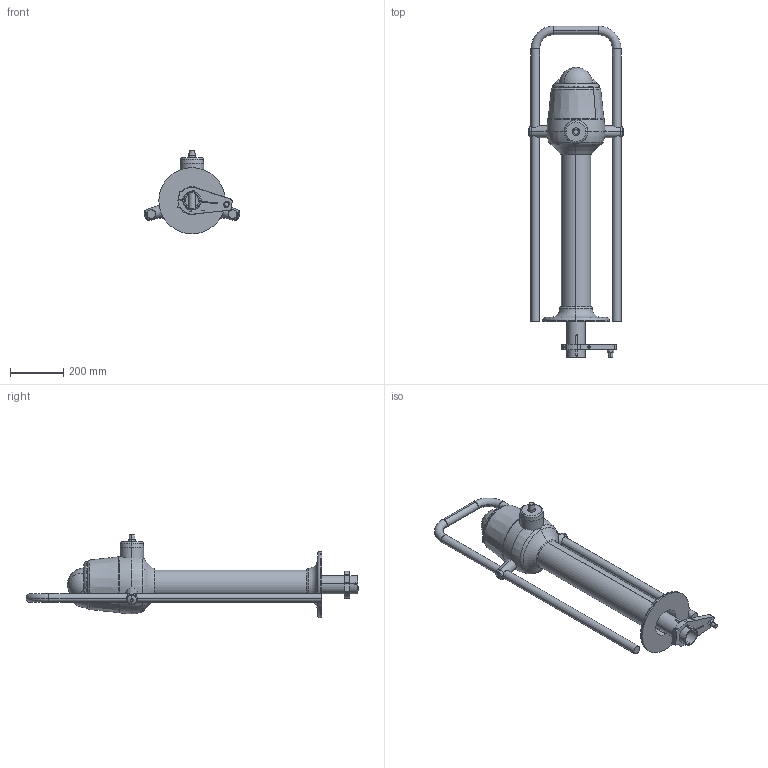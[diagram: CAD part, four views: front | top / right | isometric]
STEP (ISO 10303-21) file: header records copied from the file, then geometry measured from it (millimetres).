
FILE_DESCRIPTION (( 'STEP AP214' ), '1' );
FILE_NAME ('RP100-71.STEP', '2014-09-09T08:57:18', ( '' ), ( '' ), 'SwSTEP 2.0', 'SolidWorks 2014', '' );
FILE_SCHEMA (( 'AUTOMOTIVE_DESIGN' ));
Length unit declared in the file: millimetre
Products named in the file (12): Output lever_Output lever ›69; Z4-211 RP71 Downtube ø70x84_710; plain washer grade c_din_Washer DIN 126 - 6.6; socket head cap screw_din_DIN 912 M6 x 30 --- 30S; countersunk raised head cross recess screw_din_ISO 7047 - M3 x 12 - Z --- 12S; Body for compass horizon_No top; RP100 Binacelhus; Glass for compass horizon; Body for compass horizon_No bottom; RP100 guardrail; RP100 pedestal; RP100-71
Assembly tree (20 placements, depth 2):
  RP100-71
    RP100 pedestal
    RP100 guardrail
    Body for compass horizon_No bottom
    Glass for compass horizon
    RP100 Binacelhus
    Body for compass horizon_No top
    countersunk raised head cross recess screw_din_ISO 7047 - M3 x 12 - Z --- 12S  x4
    socket head cap screw_din_DIN 912 M6 x 30 --- 30S  x4
    plain washer grade c_din_Washer DIN 126 - 6.6  x4
    Z4-211 RP71 Downtube ø70x84_710
    Output lever_Output lever ›69
Bounding box: 356.74 x 1242.5 x 313.5 mm (x, y, z)
Volume: 8580510.3 mm3; surface area: 1797470.7 mm2
Topology: 20 solids, 20 shells, 1707 faces, 4372 edges, 2709 vertices
Faces by surface type: cone 844, cylinder 551, plane 233, torus 63, sphere 14, bspline 2
Entity records: 21527 total; most frequent: CARTESIAN_POINT 4866, DIRECTION 3729, ORIENTED_EDGE 3180, EDGE_CURVE 1590, AXIS2_PLACEMENT_3D 1561, VERTEX_POINT 994, CIRCLE 907, EDGE_LOOP 706
